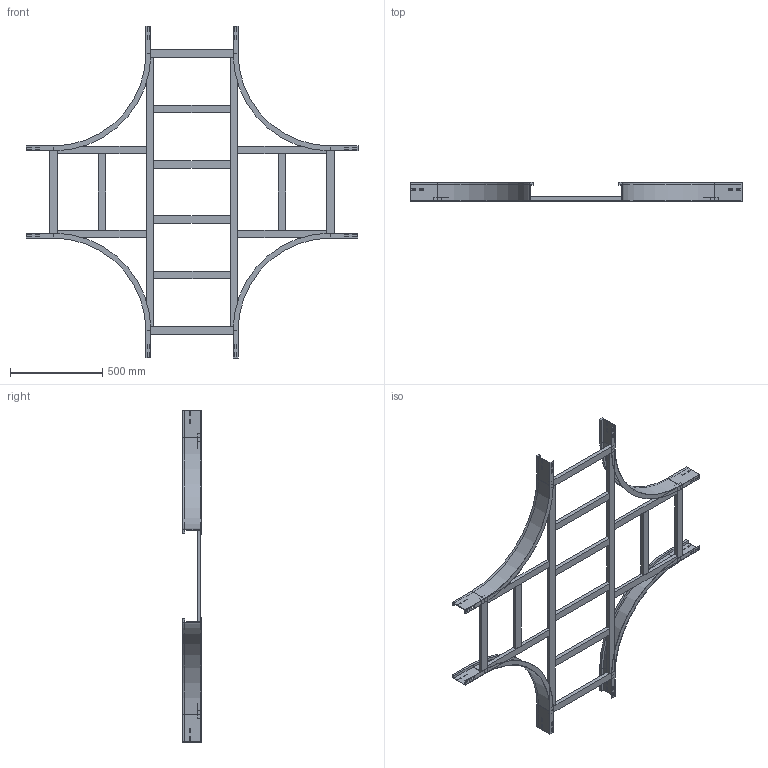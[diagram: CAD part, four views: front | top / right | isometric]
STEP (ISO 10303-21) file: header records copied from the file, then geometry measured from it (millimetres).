
FILE_DESCRIPTION (( 'STEP AP214' ), '1' );
FILE_NAME ('17B5D500.step', '2025-02-21T15:54:31', ( '' ), ( '' ), 'SwSTEP 2.0', 'SolidWorks 2023', '' );
FILE_SCHEMA (( 'AUTOMOTIVE_DESIGN' ));
Length unit declared in the file: millimetre
Products named in the file (7): TRAVERSINO_COPPIA_500; TRAVERSINO_INTERMEDIO_R500+500; 17B5D500; TRAVERSINO_VERT_R500; LONGH.INTERNO 90°_H100_R500; TRAVERSINO_LONG._R500+500; TRAVERSINO_500
Assembly tree (20 placements, depth 2):
  17B5D500
    LONGH.INTERNO 90°_H100_R500  x4
    TRAVERSINO_500  x4
    TRAVERSINO_LONG._R500+500  x2
    TRAVERSINO_INTERMEDIO_R500+500  x4
    TRAVERSINO_VERT_R500  x4
    TRAVERSINO_COPPIA_500  x2
Bounding box: 1800 x 100 x 1800 mm (x, y, z)
Volume: 9476203.6 mm3; surface area: 2402095.7 mm2
Topology: 20 solids, 20 shells, 328 faces, 800 edges, 512 vertices
Faces by surface type: plane 312, cylinder 16
Entity records: 2860 total; most frequent: CARTESIAN_POINT 459, DIRECTION 442, ORIENTED_EDGE 424, EDGE_CURVE 212, VECTOR 204, LINE 204, VERTEX_POINT 136, AXIS2_PLACEMENT_3D 119
